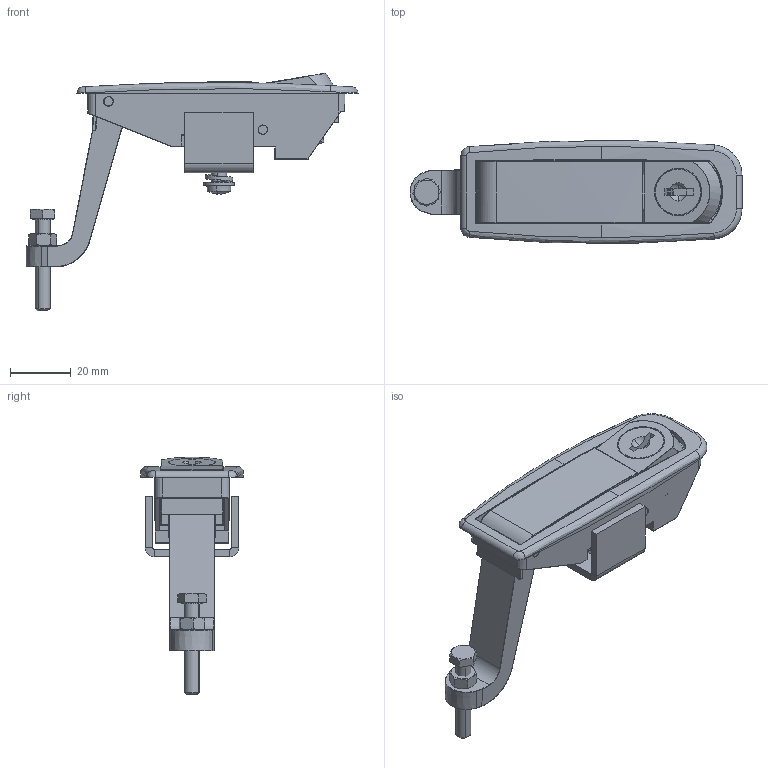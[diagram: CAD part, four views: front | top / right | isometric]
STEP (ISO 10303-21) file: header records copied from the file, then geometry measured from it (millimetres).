
FILE_DESCRIPTION (( 'STEP AP214' ), '1' );
FILE_NAME ('2.615.004.STEP', '2025-01-15T11:19:03', ( '' ), ( '' ), 'SwSTEP 2.0', 'SolidWorks 2021', '' );
FILE_SCHEMA (( 'AUTOMOTIVE_DESIGN' ));
Length unit declared in the file: millimetre
Products named in the file (14): DIN-7985_M5x12; P.039844_00-00; DIN 934_M5; P.039678_01-00; P.040017_naprｩｾony; P.039824_00-01; 2.615.004; P.039214_naprｩｾona; DIN 125 A_M5; P.039811_01-00; P.039231_00-00; DIN 933_M5x30; DIN 127 B_M5 - ST; P.040086_00-00
Assembly tree (16 placements, depth 2):
  2.615.004
    P.039678_01-00
    P.039824_00-01
    P.039811_01-00
    P.039844_00-00  x2
    P.039231_00-00
    DIN-7985_M5x12
    DIN 127 B_M5 - ST  x2
    DIN 125 A_M5  x2
    P.040017_naprｩｾony
    P.039214_naprｩｾona
    DIN 933_M5x30
    DIN 934_M5
    P.040086_00-00
Bounding box: 109.26 x 33.77 x 78.22 mm (x, y, z)
Volume: 31482.8 mm3; surface area: 32120.3 mm2
Topology: 16 solids, 16 shells, 1751 faces, 4166 edges, 2421 vertices
Faces by surface type: plane 648, cylinder 527, bspline 292, sphere 144, torus 88, cone 52
Entity records: 55444 total; most frequent: CARTESIAN_POINT 19594, ORIENTED_EDGE 7656, DIRECTION 7158, EDGE_CURVE 3828, AXIS2_PLACEMENT_3D 2725, VERTEX_POINT 2239, LINE 1708, VECTOR 1708
